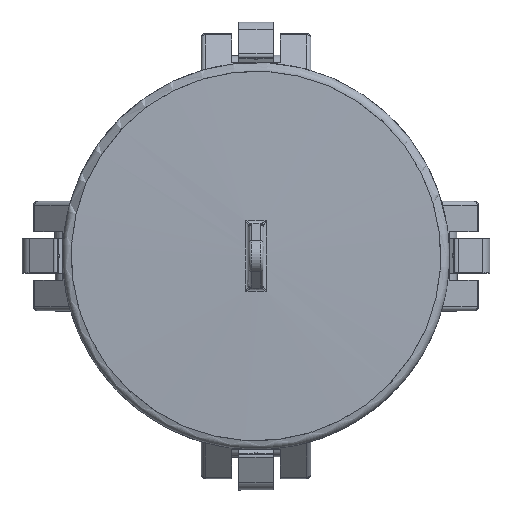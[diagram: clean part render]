
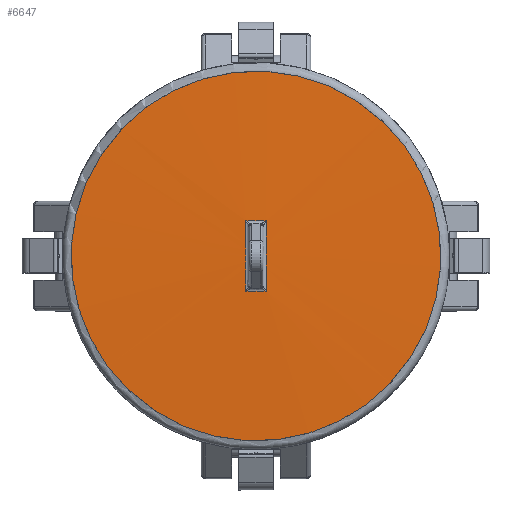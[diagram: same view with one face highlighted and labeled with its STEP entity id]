
A CAD part, top view. The second image highlights one B-rep face of the part: STEP entity #6647.
In plain terms, the highlighted spherical face has radius 1543.81 mm.
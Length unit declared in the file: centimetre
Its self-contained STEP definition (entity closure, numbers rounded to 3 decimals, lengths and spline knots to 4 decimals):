
#90=SPHERICAL_SURFACE('',#7101,154.3812);
#980=CIRCLE('',#7075,137.2979);
#983=CIRCLE('',#7082,137.6805);
#993=CIRCLE('',#7097,154.3807);
#994=CIRCLE('',#7099,6.8564);
#996=CIRCLE('',#7102,154.3807);
#1492=VERTEX_POINT('',#10173);
#1504=VERTEX_POINT('',#10464);
#1506=VERTEX_POINT('',#10496);
#1512=VERTEX_POINT('',#10540);
#1520=VERTEX_POINT('',#10959);
#2960=EDGE_CURVE('',#1506,#1504,#980,.T.);
#2969=EDGE_CURVE('',#1492,#1512,#983,.T.);
#2986=EDGE_CURVE('',#1512,#1506,#993,.T.);
#2987=EDGE_CURVE('',#1520,#1520,#994,.T.);
#2989=EDGE_CURVE('',#1504,#1492,#996,.T.);
#4132=ORIENTED_EDGE('',*,*,#2960,.F.);
#4133=ORIENTED_EDGE('',*,*,#2986,.F.);
#4134=ORIENTED_EDGE('',*,*,#2969,.F.);
#4135=ORIENTED_EDGE('',*,*,#2989,.F.);
#4136=ORIENTED_EDGE('',*,*,#2987,.F.);
#5758=EDGE_LOOP('',(#4132,#4133,#4134,#4135));
#5759=EDGE_LOOP('',(#4136));
#6211=FACE_BOUND('',#5758,.T.);
#6212=FACE_BOUND('',#5759,.T.);
#6647=ADVANCED_FACE('',(#6211,#6212),#90,.T.);
#7075=AXIS2_PLACEMENT_3D('',#10497,#7914,#7915);
#7082=AXIS2_PLACEMENT_3D('',#10539,#7929,#7930);
#7097=AXIS2_PLACEMENT_3D('',#10956,#7958,#7959);
#7099=AXIS2_PLACEMENT_3D('',#10958,#7961,#7962);
#7101=AXIS2_PLACEMENT_3D('',#10962,#7965,#7966);
#7102=AXIS2_PLACEMENT_3D('',#10963,#7967,#7968);
#7914=DIRECTION('',(0.,0.893,-0.45));
#7915=DIRECTION('',(0.,61.736,122.635));
#7929=DIRECTION('',(0.,-0.896,-0.445));
#7930=DIRECTION('',(0.,-61.243,123.309));
#7958=DIRECTION('',(1.,0.,0.));
#7959=DIRECTION('',(0.,-0.005,154.381));
#7961=DIRECTION('',(0.,0.,-1.));
#7962=DIRECTION('',(-4.709,-4.984,0.));
#7965=DIRECTION('',(0.,0.,1.));
#7966=DIRECTION('',(1.,0.,0.));
#7967=DIRECTION('',(-1.,0.,0.));
#7968=DIRECTION('',(0.,-0.005,154.381));
#10173=CARTESIAN_POINT('',(0.3807,1.3069,6.1916));
#10464=CARTESIAN_POINT('',(0.3807,-1.3154,6.1915));
#10496=CARTESIAN_POINT('',(-0.3807,-1.3154,6.1915));
#10497=CARTESIAN_POINT('',(0.,-63.0507,-116.4434));
#10539=CARTESIAN_POINT('',(0.,62.55,-117.1172));
#10540=CARTESIAN_POINT('',(-0.3807,1.3069,6.1916));
#10956=CARTESIAN_POINT('',(-0.3807,0.,-148.1836));
#10958=CARTESIAN_POINT('',(0.,0.,6.0453));
#10959=CARTESIAN_POINT('',(4.709,4.9836,6.0453));
#10962=CARTESIAN_POINT('',(0.,0.,-148.1836));
#10963=CARTESIAN_POINT('',(0.3807,0.,-148.1836));
